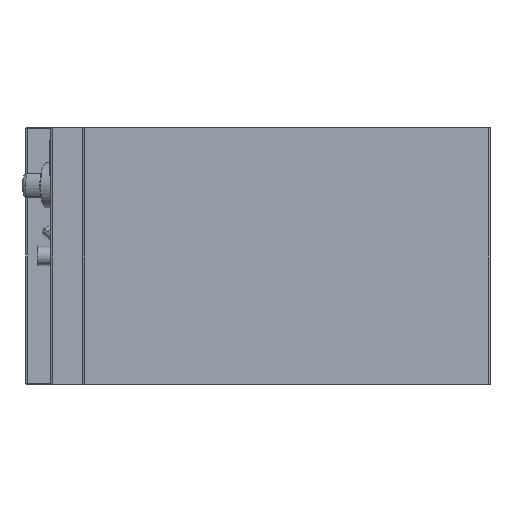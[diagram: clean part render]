
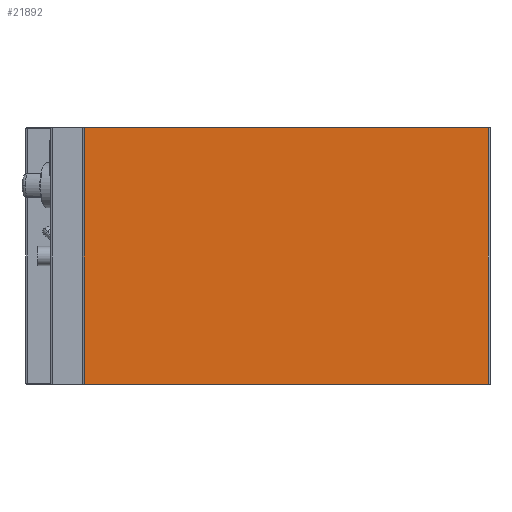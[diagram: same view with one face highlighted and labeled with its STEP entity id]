
A CAD part, front view. The second image highlights one B-rep face of the part: STEP entity #21892.
In plain terms, the highlighted planar face has unit normal (0, -1, 0).
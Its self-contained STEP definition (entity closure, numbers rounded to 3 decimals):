
#145 = ORIENTED_EDGE ( 'NONE', *, *, #8724, .F. ) ;
#265 = CARTESIAN_POINT ( 'NONE',  ( 632.263, 0., 400. ) ) ;
#1818 = ORIENTED_EDGE ( 'NONE', *, *, #9780, .T. ) ;
#5402 = EDGE_CURVE ( 'NONE', #17097, #25594, #16726, .T. ) ;
#5570 = VERTEX_POINT ( 'NONE', #15863 ) ;
#6211 = CARTESIAN_POINT ( 'NONE',  ( 632.263, 0., 0. ) ) ;
#8272 = CARTESIAN_POINT ( 'NONE',  ( 0., 0., 400. ) ) ;
#8724 = EDGE_CURVE ( 'NONE', #5570, #23204, #25344, .T. ) ;
#8762 = VECTOR ( 'NONE', #18874, 1000. ) ;
#9780 = EDGE_CURVE ( 'NONE', #5570, #17097, #20738, .T. ) ;
#9897 = CARTESIAN_POINT ( 'NONE',  ( 0., 0., 0. ) ) ;
#12353 = VECTOR ( 'NONE', #16632, 1000. ) ;
#12430 = CARTESIAN_POINT ( 'NONE',  ( 0., 0., 400. ) ) ;
#12609 = DIRECTION ( 'NONE',  ( 0., 0., 1. ) ) ;
#12725 = CARTESIAN_POINT ( 'NONE',  ( 632.263, 0., 400. ) ) ;
#14512 = CARTESIAN_POINT ( 'NONE',  ( 2.737, 0., 400. ) ) ;
#14892 = DIRECTION ( 'NONE',  ( 0., 0., -1. ) ) ;
#15382 = ORIENTED_EDGE ( 'NONE', *, *, #5402, .T. ) ;
#15724 = EDGE_CURVE ( 'NONE', #23204, #25594, #19277, .T. ) ;
#15863 = CARTESIAN_POINT ( 'NONE',  ( 2.737, 0., 400. ) ) ;
#16632 = DIRECTION ( 'NONE',  ( 1., 0., 0. ) ) ;
#16726 = LINE ( 'NONE', #9897, #22383 ) ;
#17097 = VERTEX_POINT ( 'NONE', #22027 ) ;
#17647 = ORIENTED_EDGE ( 'NONE', *, *, #15724, .F. ) ;
#18033 = EDGE_LOOP ( 'NONE', ( #15382, #17647, #145, #1818 ) ) ;
#18874 = DIRECTION ( 'NONE',  ( 0., 0., -1. ) ) ;
#19049 = FACE_OUTER_BOUND ( 'NONE', #18033, .T. ) ;
#19277 = LINE ( 'NONE', #265, #27058 ) ;
#20738 = LINE ( 'NONE', #14512, #8762 ) ;
#21892 = ADVANCED_FACE ( 'NONE', ( #19049 ), #25521, .F. ) ;
#22027 = CARTESIAN_POINT ( 'NONE',  ( 2.737, 0., 0. ) ) ;
#22383 = VECTOR ( 'NONE', #25310, 1000. ) ;
#23204 = VERTEX_POINT ( 'NONE', #12725 ) ;
#24196 = AXIS2_PLACEMENT_3D ( 'NONE', #8272, #25245, #12609 ) ;
#25245 = DIRECTION ( 'NONE',  ( 0., 1., 0. ) ) ;
#25310 = DIRECTION ( 'NONE',  ( 1., 0., 0. ) ) ;
#25344 = LINE ( 'NONE', #12430, #12353 ) ;
#25521 = PLANE ( 'NONE',  #24196 ) ;
#25594 = VERTEX_POINT ( 'NONE', #6211 ) ;
#27058 = VECTOR ( 'NONE', #14892, 1000. ) ;
